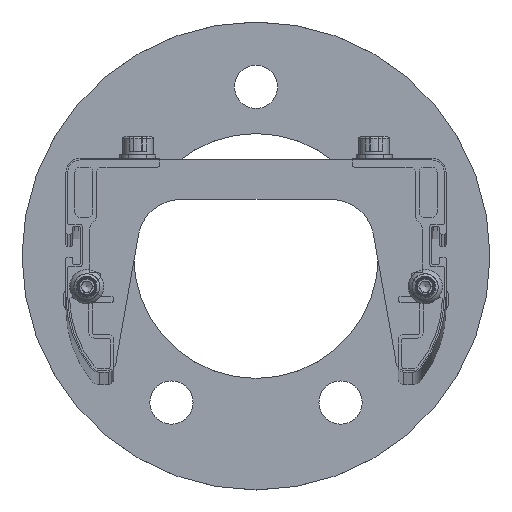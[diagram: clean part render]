
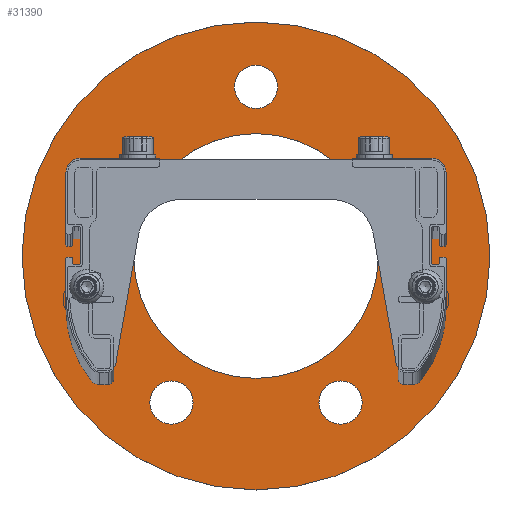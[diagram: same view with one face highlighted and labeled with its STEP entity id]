
A CAD part, top view. The second image highlights one B-rep face of the part: STEP entity #31390.
In plain terms, the highlighted planar face has unit normal (0, 0, 1).
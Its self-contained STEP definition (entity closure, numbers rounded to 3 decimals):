
#26720=PLANE('',#105526);
#31390=ADVANCED_FACE('',(#35580,#35581,#35582,#35583,#35584,#35585,#35586),
#26720,.T.);
#35580=FACE_BOUND('',#41373,.T.);
#35581=FACE_BOUND('',#41374,.T.);
#35582=FACE_BOUND('',#41375,.T.);
#35583=FACE_BOUND('',#41376,.T.);
#35584=FACE_BOUND('',#41377,.T.);
#35585=FACE_BOUND('',#41378,.T.);
#35586=FACE_BOUND('',#41379,.T.);
#41373=EDGE_LOOP('',(#65416));
#41374=EDGE_LOOP('',(#65417));
#41375=EDGE_LOOP('',(#65418));
#41376=EDGE_LOOP('',(#65419));
#41377=EDGE_LOOP('',(#65420));
#41378=EDGE_LOOP('',(#65421));
#41379=EDGE_LOOP('',(#65422));
#65416=ORIENTED_EDGE('',*,*,#89615,.F.);
#65417=ORIENTED_EDGE('',*,*,#89616,.F.);
#65418=ORIENTED_EDGE('',*,*,#89617,.F.);
#65419=ORIENTED_EDGE('',*,*,#89618,.T.);
#65420=ORIENTED_EDGE('',*,*,#89619,.T.);
#65421=ORIENTED_EDGE('',*,*,#89620,.T.);
#65422=ORIENTED_EDGE('',*,*,#89621,.F.);
#76860=VERTEX_POINT('',#170359);
#76861=VERTEX_POINT('',#170361);
#76862=VERTEX_POINT('',#170363);
#76863=VERTEX_POINT('',#170365);
#76864=VERTEX_POINT('',#170367);
#76865=VERTEX_POINT('',#170369);
#76866=VERTEX_POINT('',#170371);
#89615=EDGE_CURVE('',#76860,#76860,#95362,.T.);
#89616=EDGE_CURVE('',#76861,#76861,#95363,.T.);
#89617=EDGE_CURVE('',#76862,#76862,#95364,.T.);
#89618=EDGE_CURVE('',#76863,#76863,#95365,.T.);
#89619=EDGE_CURVE('',#76864,#76864,#95366,.T.);
#89620=EDGE_CURVE('',#76865,#76865,#95367,.T.);
#89621=EDGE_CURVE('',#76866,#76866,#95368,.T.);
#95362=CIRCLE('',#105519,6.);
#95363=CIRCLE('',#105520,6.);
#95364=CIRCLE('',#105521,6.);
#95365=CIRCLE('',#105522,34.);
#95366=CIRCLE('',#105523,3.6);
#95367=CIRCLE('',#105524,3.6);
#95368=CIRCLE('',#105525,65.);
#105519=AXIS2_PLACEMENT_3D('',#170358,#132120,#132121);
#105520=AXIS2_PLACEMENT_3D('',#170360,#132122,#132123);
#105521=AXIS2_PLACEMENT_3D('',#170362,#132124,#132125);
#105522=AXIS2_PLACEMENT_3D('',#170364,#132126,#132127);
#105523=AXIS2_PLACEMENT_3D('',#170366,#132128,#132129);
#105524=AXIS2_PLACEMENT_3D('',#170368,#132130,#132131);
#105525=AXIS2_PLACEMENT_3D('',#170370,#132132,#132133);
#105526=AXIS2_PLACEMENT_3D('',#170372,#132134,#132135);
#132120=DIRECTION('',(0.,0.,1.));
#132121=DIRECTION('',(-1.,0.,0.));
#132122=DIRECTION('',(0.,0.,1.));
#132123=DIRECTION('',(-1.,0.,0.));
#132124=DIRECTION('',(0.,0.,1.));
#132125=DIRECTION('',(-1.,0.,0.));
#132126=DIRECTION('',(0.,0.,-1.));
#132127=DIRECTION('',(-1.,0.,0.));
#132128=DIRECTION('',(0.,0.,-1.));
#132129=DIRECTION('',(1.,0.,0.));
#132130=DIRECTION('',(0.,0.,-1.));
#132131=DIRECTION('',(1.,0.,0.));
#132132=DIRECTION('',(0.,0.,-1.));
#132133=DIRECTION('',(-1.,0.,0.));
#132134=DIRECTION('',(0.,0.,1.));
#132135=DIRECTION('',(-1.,0.,0.));
#170358=CARTESIAN_POINT('',(293.846,-100.913,-285.));
#170359=CARTESIAN_POINT('',(287.846,-100.913,-285.));
#170360=CARTESIAN_POINT('',(317.346,-13.21,-285.));
#170361=CARTESIAN_POINT('',(311.346,-13.21,-285.));
#170362=CARTESIAN_POINT('',(340.846,-100.913,-285.));
#170363=CARTESIAN_POINT('',(334.846,-100.913,-285.));
#170364=CARTESIAN_POINT('',(317.346,-60.21,-285.));
#170365=CARTESIAN_POINT('',(283.346,-60.21,-285.));
#170366=CARTESIAN_POINT('',(364.346,-72.21,-285.));
#170367=CARTESIAN_POINT('',(367.946,-72.21,-285.));
#170368=CARTESIAN_POINT('',(270.346,-72.21,-285.));
#170369=CARTESIAN_POINT('',(273.946,-72.21,-285.));
#170370=CARTESIAN_POINT('',(317.346,-60.21,-285.));
#170371=CARTESIAN_POINT('',(252.346,-60.21,-285.));
#170372=CARTESIAN_POINT('',(252.346,-60.21,-285.));
